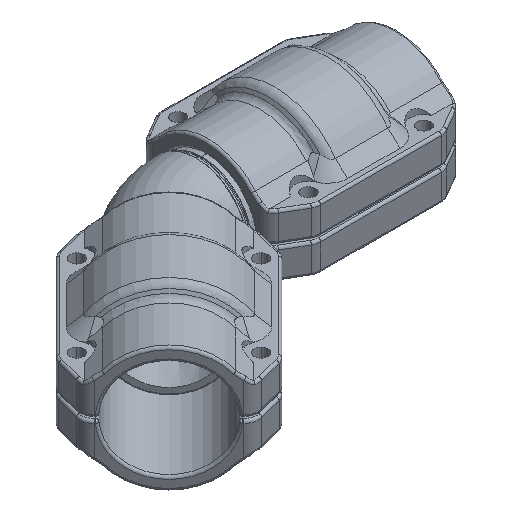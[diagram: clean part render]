
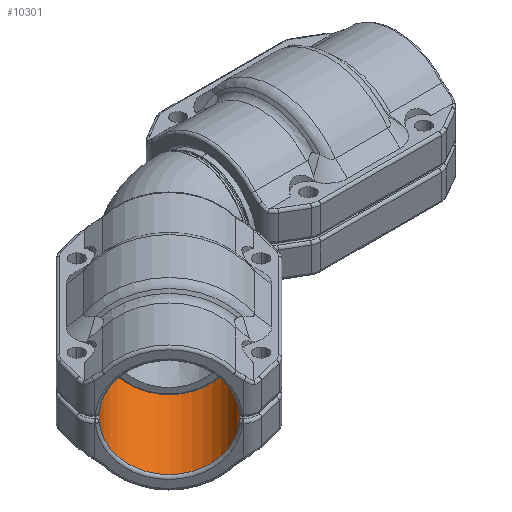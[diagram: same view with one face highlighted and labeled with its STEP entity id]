
A CAD part, isometric view. The second image highlights one B-rep face of the part: STEP entity #10301.
In plain terms, the highlighted cylindrical face has radius 20.25 mm (diameter 40.5 mm), a partial arc.
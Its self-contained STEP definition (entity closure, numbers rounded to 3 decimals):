
#7251=CARTESIAN_POINT('',(38.,0.,0.));
#7252=DIRECTION('',(1.,0.,0.));
#7253=DIRECTION('',(0.,-0.998,-0.071));
#7254=AXIS2_PLACEMENT_3D('',#7251,#7252,#7253);
#7259=CARTESIAN_POINT('',(38.,0.,0.));
#7260=DIRECTION('',(1.,0.,0.));
#7261=DIRECTION('',(0.,0.,-1.));
#7262=AXIS2_PLACEMENT_3D('',#7259,#7260,#7261);
#7447=CARTESIAN_POINT('',(-38.,0.,0.));
#7448=DIRECTION('',(-1.,0.,0.));
#7449=DIRECTION('',(0.,0.998,-0.071));
#7450=AXIS2_PLACEMENT_3D('',#7447,#7448,#7449);
#7455=CARTESIAN_POINT('',(-38.,0.,0.));
#7456=DIRECTION('',(-1.,0.,0.));
#7457=DIRECTION('',(0.,0.,-1.));
#7458=AXIS2_PLACEMENT_3D('',#7455,#7456,#7457);
#7686=DIRECTION('',(-1.,0.,0.));
#7687=VECTOR('',#7686,76.);
#7688=CARTESIAN_POINT('',(38.,20.199,-1.429));
#7689=LINE('',#7688,#7687);
#7806=DIRECTION('',(1.,0.,0.));
#7807=VECTOR('',#7806,76.);
#7808=CARTESIAN_POINT('',(-38.,-20.199,
-1.429));
#7809=LINE('',#7808,#7807);
#9323=CARTESIAN_POINT('',(38.,-20.199,-1.429));
#9324=VERTEX_POINT('',#9323);
#9325=CARTESIAN_POINT('',(38.,0.,-20.25));
#9326=CARTESIAN_POINT('',(38.,20.199,-1.429));
#9327=VERTEX_POINT('',#9325);
#9328=VERTEX_POINT('',#9326);
#9343=CARTESIAN_POINT('',(-38.,20.199,-1.429));
#9344=VERTEX_POINT('',#9343);
#9391=CARTESIAN_POINT('',(-38.,-20.199,
-1.429));
#9392=VERTEX_POINT('',#9391);
#9425=CARTESIAN_POINT('',(-38.,0.,-20.25));
#9426=VERTEX_POINT('',#9425);
#10287=CARTESIAN_POINT('',(39.,0.,0.));
#10288=DIRECTION('',(-1.,0.,0.));
#10289=DIRECTION('',(0.,0.,-1.));
#10290=AXIS2_PLACEMENT_3D('',#10287,#10288,#10289);
#10291=CYLINDRICAL_SURFACE('',#10290,20.25);
#10292=ORIENTED_EDGE('',*,*,#9834,.F.);
#10293=ORIENTED_EDGE('',*,*,#9832,.F.);
#10295=ORIENTED_EDGE('',*,*,#10294,.F.);
#10296=ORIENTED_EDGE('',*,*,#10020,.F.);
#10297=ORIENTED_EDGE('',*,*,#10018,.F.);
#10298=ORIENTED_EDGE('',*,*,#10199,.F.);
#10299=EDGE_LOOP('',(#10292,#10293,#10295,#10296,#10297,#10298));
#10300=FACE_OUTER_BOUND('',#10299,.F.);
#7255=CIRCLE('',#7254,20.25);
#7263=CIRCLE('',#7262,20.25);
#7451=CIRCLE('',#7450,20.25);
#7459=CIRCLE('',#7458,20.25);
#9832=EDGE_CURVE('',#9324,#9327,#7255,.T.);
#9834=EDGE_CURVE('',#9327,#9328,#7263,.T.);
#10018=EDGE_CURVE('',#9344,#9426,#7451,.T.);
#10020=EDGE_CURVE('',#9426,#9392,#7459,.T.);
#10199=EDGE_CURVE('',#9328,#9344,#7689,.T.);
#10294=EDGE_CURVE('',#9392,#9324,#7809,.T.);
#10301=ADVANCED_FACE('',(#10300),#10291,.F.);
